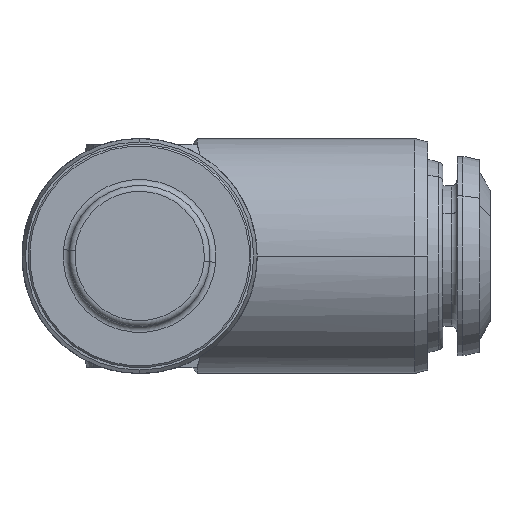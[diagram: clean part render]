
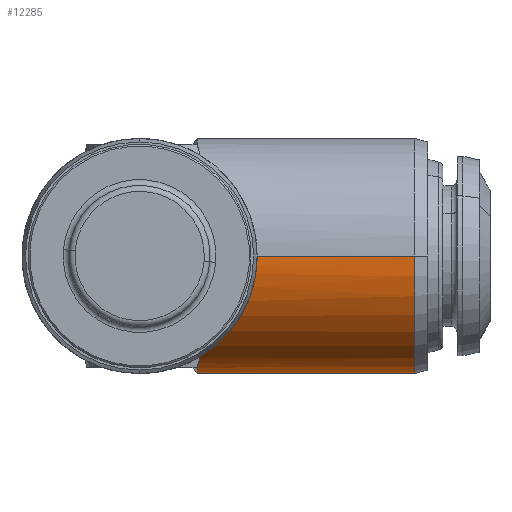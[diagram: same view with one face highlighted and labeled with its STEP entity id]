
A CAD part, left-side view. The second image highlights one B-rep face of the part: STEP entity #12285.
In plain terms, the highlighted cylindrical face has radius 10 mm (diameter 20 mm), a partial arc.
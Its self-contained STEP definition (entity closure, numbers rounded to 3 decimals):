
#46 = CARTESIAN_POINT ( 'NONE',  ( -5.071, -5.071, -8.619 ) ) ;
#137 = EDGE_CURVE ( 'NONE', #12142, #9676, #1301, .T. ) ;
#190 = ORIENTED_EDGE ( 'NONE', *, *, #11376, .T. ) ;
#197 = CARTESIAN_POINT ( 'NONE',  ( -10., -10., 0. ) ) ;
#240 = VERTEX_POINT ( 'NONE', #6544 ) ;
#470 =( BOUNDED_CURVE ( )  B_SPLINE_CURVE ( 3, ( #11057, #3702, #15172, #7235 ),
 .UNSPECIFIED., .F., .T. ) 
 B_SPLINE_CURVE_WITH_KNOTS ( ( 4, 4 ),
 ( 0.318, 0.527 ),
 .UNSPECIFIED. ) 
 CURVE ( )  GEOMETRIC_REPRESENTATION_ITEM ( )  RATIONAL_B_SPLINE_CURVE ( ( 1., 0.996, 0.996, 1. ) ) 
 REPRESENTATION_ITEM ( '' )  );
#611 = DIRECTION ( 'NONE',  ( -1., 0., 0. ) ) ;
#694 = CARTESIAN_POINT ( 'NONE',  ( -3.123, -4.898, -9.5 ) ) ;
#1114 = CARTESIAN_POINT ( 'NONE',  ( -4.426, -5.034, -8.994 ) ) ;
#1147 = VERTEX_POINT ( 'NONE', #16341 ) ;
#1301 = CIRCLE ( 'NONE', #10766, 10. ) ;
#1924 = CARTESIAN_POINT ( 'NONE',  ( 5.045, -5.109, -8.634 ) ) ;
#2164 = CARTESIAN_POINT ( 'NONE',  ( 10., -23.38, 0. ) ) ;
#2249 = EDGE_CURVE ( 'NONE', #240, #10136, #15455, .T. ) ;
#2380 = VECTOR ( 'NONE', #7974, 1000. ) ;
#2420 = AXIS2_PLACEMENT_3D ( 'NONE', #10381, #15506, #10299 ) ;
#2847 = CARTESIAN_POINT ( 'NONE',  ( 5.071, -5.071, -8.619 ) ) ;
#3012 = CARTESIAN_POINT ( 'NONE',  ( 5.071, -5.071, -8.619 ) ) ;
#3192 = VERTEX_POINT ( 'NONE', #2847 ) ;
#3419 = ORIENTED_EDGE ( 'NONE', *, *, #8209, .F. ) ;
#3702 = CARTESIAN_POINT ( 'NONE',  ( 3.788, -4.957, -9.281 ) ) ;
#3943 = CARTESIAN_POINT ( 'NONE',  ( -5.031, -5.128, -8.642 ) ) ;
#3998 = CARTESIAN_POINT ( 'NONE',  ( -5.031, -5.128, -8.642 ) ) ;
#4265 = CARTESIAN_POINT ( 'NONE',  ( -10., 0., 0. ) ) ;
#5184 = CARTESIAN_POINT ( 'NONE',  ( -3.788, -4.957, -9.281 ) ) ;
#5279 = VERTEX_POINT ( 'NONE', #5361 ) ;
#5299 = VERTEX_POINT ( 'NONE', #7807 ) ;
#5361 = CARTESIAN_POINT ( 'NONE',  ( -5.031, -5.128, -8.642 ) ) ;
#5840 = ORIENTED_EDGE ( 'NONE', *, *, #137, .T. ) ;
#5880 = CARTESIAN_POINT ( 'NONE',  ( 5.031, -5.128, -8.642 ) ) ;
#6043 = CARTESIAN_POINT ( 'NONE',  ( 5.071, -5.071, -8.619 ) ) ;
#6069 = ORIENTED_EDGE ( 'NONE', *, *, #15195, .T. ) ;
#6276 = CARTESIAN_POINT ( 'NONE',  ( -10., -10., -3.629 ) ) ;
#6470 = ORIENTED_EDGE ( 'NONE', *, *, #8529, .T. ) ;
#6544 = CARTESIAN_POINT ( 'NONE',  ( -5.071, -5.071, -8.619 ) ) ;
#6669 = DIRECTION ( 'NONE',  ( 0., 1., 0. ) ) ;
#6671 = EDGE_CURVE ( 'NONE', #12142, #5299, #15178, .T. ) ;
#6748 = ORIENTED_EDGE ( 'NONE', *, *, #2249, .F. ) ;
#7235 = CARTESIAN_POINT ( 'NONE',  ( 5.031, -5.128, -8.642 ) ) ;
#7579 = EDGE_CURVE ( 'NONE', #9676, #10136, #15824, .T. ) ;
#7807 = CARTESIAN_POINT ( 'NONE',  ( 10., -10., 0. ) ) ;
#7940 = CARTESIAN_POINT ( 'NONE',  ( 0., -23.38, 0. ) ) ;
#7974 = DIRECTION ( 'NONE',  ( 0., 1., 0. ) ) ;
#8055 = CYLINDRICAL_SURFACE ( 'NONE', #11896, 10. ) ;
#8209 = EDGE_CURVE ( 'NONE', #5299, #3192, #10396, .T. ) ;
#8426 = VERTEX_POINT ( 'NONE', #694 ) ;
#8529 = EDGE_CURVE ( 'NONE', #240, #5279, #11455, .T. ) ;
#8565 = ORIENTED_EDGE ( 'NONE', *, *, #9890, .F. ) ;
#8773 = CARTESIAN_POINT ( 'NONE',  ( -5.045, -5.109, -8.634 ) ) ;
#9044 = DIRECTION ( 'NONE',  ( 0., 1., 0. ) ) ;
#9272 = CARTESIAN_POINT ( 'NONE',  ( 8.199, -8.199, -6.779 ) ) ;
#9444 = CIRCLE ( 'NONE', #2420, 10. ) ;
#9502 = CARTESIAN_POINT ( 'NONE',  ( 5.031, -5.128, -8.642 ) ) ;
#9610 = CARTESIAN_POINT ( 'NONE',  ( 0., 0., 0. ) ) ;
#9655 = EDGE_LOOP ( 'NONE', ( #12916, #5840, #9830, #6748, #6470, #190, #8565, #16483, #6069, #3419 ) ) ;
#9676 = VERTEX_POINT ( 'NONE', #15782 ) ;
#9804 = EDGE_CURVE ( 'NONE', #1147, #13634, #470, .T. ) ;
#9830 = ORIENTED_EDGE ( 'NONE', *, *, #7579, .T. ) ;
#9890 = EDGE_CURVE ( 'NONE', #1147, #8426, #9444, .T. ) ;
#10136 = VERTEX_POINT ( 'NONE', #197 ) ;
#10299 = DIRECTION ( 'NONE',  ( -1., 0., 0. ) ) ;
#10346 = CARTESIAN_POINT ( 'NONE',  ( -3.123, -4.898, -9.5 ) ) ;
#10374 = CARTESIAN_POINT ( 'NONE',  ( -5.058, -5.09, -8.627 ) ) ;
#10381 = CARTESIAN_POINT ( 'NONE',  ( 0., -4.898, 0. ) ) ;
#10396 =( BOUNDED_CURVE ( )  B_SPLINE_CURVE ( 3, ( #10784, #14579, #9272, #3012 ),
 .UNSPECIFIED., .F., .T. ) 
 B_SPLINE_CURVE_WITH_KNOTS ( ( 4, 4 ),
 ( 3.142, 4.181 ),
 .UNSPECIFIED. ) 
 CURVE ( )  GEOMETRIC_REPRESENTATION_ITEM ( )  RATIONAL_B_SPLINE_CURVE ( ( 1., 0.912, 0.912, 1. ) ) 
 REPRESENTATION_ITEM ( '' )  );
#10766 = AXIS2_PLACEMENT_3D ( 'NONE', #7940, #6669, #11824 ) ;
#10784 = CARTESIAN_POINT ( 'NONE',  ( 10., -10., 0. ) ) ;
#11057 = CARTESIAN_POINT ( 'NONE',  ( 3.123, -4.898, -9.5 ) ) ;
#11316 = CARTESIAN_POINT ( 'NONE',  ( 10., 0., 0. ) ) ;
#11376 = EDGE_CURVE ( 'NONE', #5279, #8426, #15908, .T. ) ;
#11422 = CARTESIAN_POINT ( 'NONE',  ( -10., -10., 0. ) ) ;
#11455 =( BOUNDED_CURVE ( )  B_SPLINE_CURVE ( 3, ( #46, #10374, #8773, #3943 ),
 .UNSPECIFIED., .F., .T. ) 
 B_SPLINE_CURVE_WITH_KNOTS ( ( 4, 4 ),
 ( 0.739, 0.744 ),
 .UNSPECIFIED. ) 
 CURVE ( )  GEOMETRIC_REPRESENTATION_ITEM ( )  RATIONAL_B_SPLINE_CURVE ( ( 1., 1., 1., 1. ) ) 
 REPRESENTATION_ITEM ( '' )  );
#11505 = CARTESIAN_POINT ( 'NONE',  ( -8.199, -8.199, -6.779 ) ) ;
#11824 = DIRECTION ( 'NONE',  ( -1., 0., 0. ) ) ;
#11851 = DIRECTION ( 'NONE',  ( 0., 1., 0. ) ) ;
#11896 = AXIS2_PLACEMENT_3D ( 'NONE', #9610, #11851, #611 ) ;
#12142 = VERTEX_POINT ( 'NONE', #2164 ) ;
#12285 = ADVANCED_FACE ( 'NONE', ( #16069 ), #8055, .T. ) ;
#12916 = ORIENTED_EDGE ( 'NONE', *, *, #6671, .F. ) ;
#13634 = VERTEX_POINT ( 'NONE', #9502 ) ;
#13668 = VECTOR ( 'NONE', #9044, 1000. ) ;
#14579 = CARTESIAN_POINT ( 'NONE',  ( 10., -10., -3.629 ) ) ;
#14985 = CARTESIAN_POINT ( 'NONE',  ( 5.058, -5.09, -8.627 ) ) ;
#15172 = CARTESIAN_POINT ( 'NONE',  ( 4.426, -5.034, -8.994 ) ) ;
#15178 = LINE ( 'NONE', #11316, #13668 ) ;
#15195 = EDGE_CURVE ( 'NONE', #13634, #3192, #16013, .T. ) ;
#15213 = CARTESIAN_POINT ( 'NONE',  ( -5.071, -5.071, -8.619 ) ) ;
#15455 =( BOUNDED_CURVE ( )  B_SPLINE_CURVE ( 3, ( #15213, #11505, #6276, #11422 ),
 .UNSPECIFIED., .F., .T. ) 
 B_SPLINE_CURVE_WITH_KNOTS ( ( 4, 4 ),
 ( 2.103, 3.142 ),
 .UNSPECIFIED. ) 
 CURVE ( )  GEOMETRIC_REPRESENTATION_ITEM ( )  RATIONAL_B_SPLINE_CURVE ( ( 1., 0.912, 0.912, 1. ) ) 
 REPRESENTATION_ITEM ( '' )  );
#15506 = DIRECTION ( 'NONE',  ( 0., 1., 0. ) ) ;
#15782 = CARTESIAN_POINT ( 'NONE',  ( -10., -23.38, 0. ) ) ;
#15824 = LINE ( 'NONE', #4265, #2380 ) ;
#15908 =( BOUNDED_CURVE ( )  B_SPLINE_CURVE ( 3, ( #3998, #1114, #5184, #10346 ),
 .UNSPECIFIED., .F., .T. ) 
 B_SPLINE_CURVE_WITH_KNOTS ( ( 4, 4 ),
 ( 5.756, 5.966 ),
 .UNSPECIFIED. ) 
 CURVE ( )  GEOMETRIC_REPRESENTATION_ITEM ( )  RATIONAL_B_SPLINE_CURVE ( ( 1., 0.996, 0.996, 1. ) ) 
 REPRESENTATION_ITEM ( '' )  );
#16013 =( BOUNDED_CURVE ( )  B_SPLINE_CURVE ( 3, ( #5880, #1924, #14985, #6043 ),
 .UNSPECIFIED., .F., .F. ) 
 B_SPLINE_CURVE_WITH_KNOTS ( ( 4, 4 ),
 ( 5.54, 5.544 ),
 .UNSPECIFIED. ) 
 CURVE ( )  GEOMETRIC_REPRESENTATION_ITEM ( )  RATIONAL_B_SPLINE_CURVE ( ( 1., 1., 1., 1. ) ) 
 REPRESENTATION_ITEM ( '' )  );
#16069 = FACE_OUTER_BOUND ( 'NONE', #9655, .T. ) ;
#16341 = CARTESIAN_POINT ( 'NONE',  ( 3.123, -4.898, -9.5 ) ) ;
#16483 = ORIENTED_EDGE ( 'NONE', *, *, #9804, .T. ) ;
